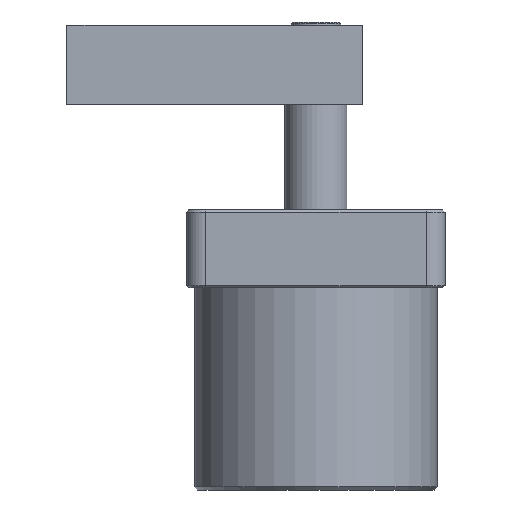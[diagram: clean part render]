
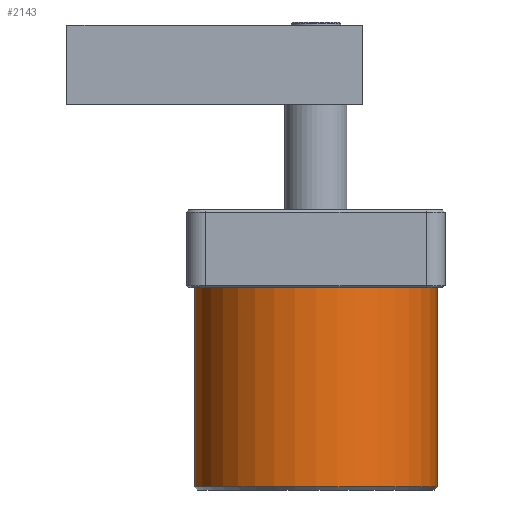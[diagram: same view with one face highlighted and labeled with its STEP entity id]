
A CAD part, front view. The second image highlights one B-rep face of the part: STEP entity #2143.
In plain terms, the highlighted cylindrical face has radius 39 mm (diameter 78 mm), a full revolution.
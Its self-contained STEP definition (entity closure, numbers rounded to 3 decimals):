
#203=CYLINDRICAL_SURFACE('',#2314,39.);
#360=ORIENTED_EDGE('',*,*,#665,.T.);
#361=ORIENTED_EDGE('',*,*,#648,.F.);
#648=EDGE_CURVE('',#806,#806,#914,.T.);
#665=EDGE_CURVE('',#823,#823,#927,.T.);
#806=VERTEX_POINT('',#3013);
#823=VERTEX_POINT('',#3057);
#914=CIRCLE('',#2292,39.);
#927=CIRCLE('',#2315,39.);
#1030=EDGE_LOOP('',(#360));
#1031=EDGE_LOOP('',(#361));
#1206=FACE_BOUND('',#1030,.T.);
#1207=FACE_BOUND('',#1031,.T.);
#2143=ADVANCED_FACE('',(#1206,#1207),#203,.T.);
#2292=AXIS2_PLACEMENT_3D('',#3012,#2559,#2560);
#2314=AXIS2_PLACEMENT_3D('',#3055,#2607,#2608);
#2315=AXIS2_PLACEMENT_3D('',#3056,#2609,#2610);
#2559=DIRECTION('',(0.,0.,1.));
#2560=DIRECTION('',(0.,-1.,0.));
#2607=DIRECTION('',(0.,0.,1.));
#2608=DIRECTION('',(0.,-1.,0.));
#2609=DIRECTION('',(0.,0.,1.));
#2610=DIRECTION('',(1.,0.,0.));
#3012=CARTESIAN_POINT('',(19.25,43.,-10.2));
#3013=CARTESIAN_POINT('',(19.25,4.,-10.2));
#3055=CARTESIAN_POINT('',(19.25,43.,-75.2));
#3056=CARTESIAN_POINT('',(19.25,43.,-74.2));
#3057=CARTESIAN_POINT('',(58.25,43.,-74.2));
